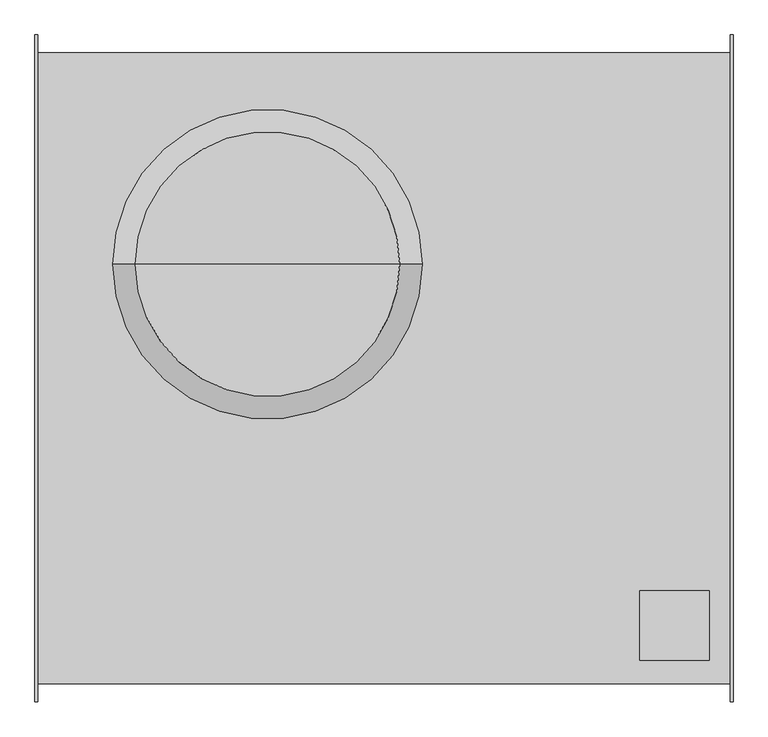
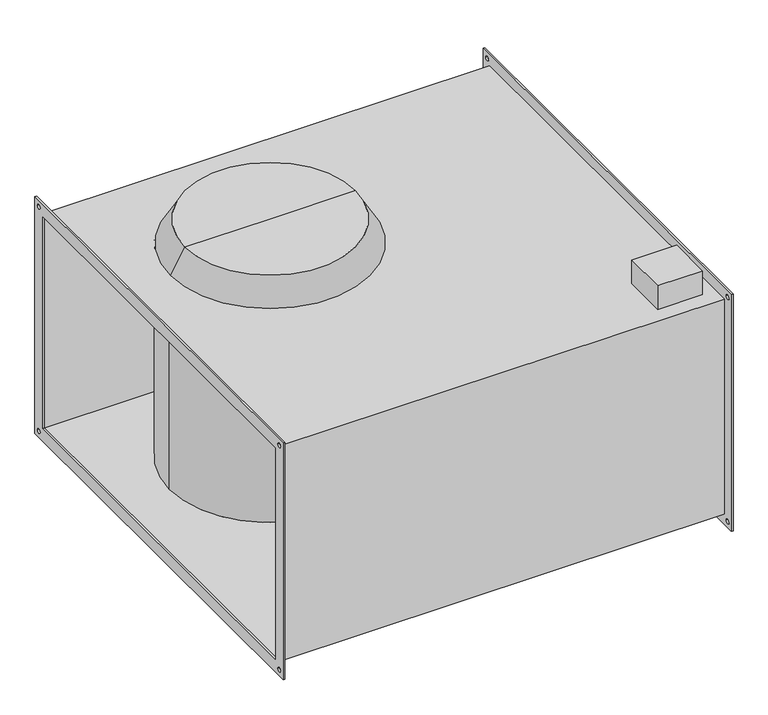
"""IFC4 building model written with IfcOpenShell, lengths in millimetres: proxy geometry."""

import ifcopenshell
import ifcopenshell.guid

model = None  # the IFC model being written
_history = None  # IfcOwnerHistory: only IFC2X3 demands one
_inside = {}  # id of a spatial element -> (the spatial element, [elements in it])
_under = {}  # id of a project, library or spatial element -> (it, [spatial elements below it])
_declared = {}  # id of a project -> (the project, [libraries it declares])
_typed = {}  # id of a type object -> (the type object, [elements of that type])
_made_of = {}  # id of a material, layer set ... -> (it, [elements and type objects made of it])


def new_model(schema):
    """Start an empty IFC model of exactly this schema.

    Asked for "IFC4X3", IfcOpenShell would pick the latest addendum, in which some entities
    have other attributes; the version numbers below select the first issue.
    IFC2X3 requires an IfcOwnerHistory on every rooted entity: one is made here for all.
    """
    global model, _history
    if schema == "IFC4X3":
        model = ifcopenshell.file(schema_version=(4, 3, 0, 0))
    else:
        model = ifcopenshell.file(schema=schema)
    _inside.clear()
    _under.clear()
    _declared.clear()
    _typed.clear()
    _made_of.clear()
    _history = None
    if model.schema == "IFC2X3":
        org = make("IfcOrganization", Name="unknown")
        user = make(
            "IfcPersonAndOrganization",
            ThePerson=make("IfcPerson", FamilyName="unknown"),
            TheOrganization=org,
        )
        app = make(
            "IfcApplication",
            ApplicationDeveloper=org,
            Version="unknown",
            ApplicationFullName="unknown",
            ApplicationIdentifier="unknown",
        )
        _history = make(
            "IfcOwnerHistory",
            OwningUser=user,
            OwningApplication=app,
            ChangeAction="ADDED",
            CreationDate=0,
        )
    return model


def make(cls, **values):
    """One entity of the class cls with the attributes given. An attribute that is None is left unset."""
    return model.create_entity(
        cls, **{name: value for name, value in values.items() if value is not None}
    )


def rooted(cls, **values):
    """An entity with a GlobalId (a new one), such as an element, a storey or a relation."""
    return make(cls, GlobalId=ifcopenshell.guid.new(), OwnerHistory=_history, **values)


def si_unit(unit_type, name, prefix=None):
    """IfcSIUnit, for example si_unit("LENGTHUNIT", "METRE", prefix="MILLI")."""
    return make("IfcSIUnit", UnitType=unit_type, Prefix=prefix, Name=name)


def assignment(units):
    """IfcUnitAssignment: the units of a project."""
    return None if units is None else make("IfcUnitAssignment", Units=units)


def point(xyz):
    """IfcCartesianPoint."""
    return None if xyz is None else make("IfcCartesianPoint", Coordinates=xyz)


def direction(xyz):
    """IfcDirection."""
    return None if xyz is None else make("IfcDirection", DirectionRatios=xyz)


def frame(location, z_axis=None, x_axis=None):
    """IfcAxis2Placement3D, a coordinate frame: its origin and axes. An axis left out is left unset."""
    return make(
        "IfcAxis2Placement3D",
        Location=point(location),
        Axis=direction(z_axis),
        RefDirection=direction(x_axis),
    )


def frame_2d(location, x_axis=None):
    """IfcAxis2Placement2D, a coordinate frame in the plane: its origin and x axis."""
    return make(
        "IfcAxis2Placement2D", Location=point(location), RefDirection=direction(x_axis)
    )


def origin():
    """The frame at (0, 0, 0) with its axes left unset."""
    return frame((0.0, 0.0, 0.0))


def place(relative_to, where):
    """IfcLocalPlacement: puts the frame where relative to a parent placement (None: the world)."""
    return make(
        "IfcLocalPlacement", PlacementRelTo=relative_to, RelativePlacement=where
    )


def context(
    kind, dimensions, precision=None, world=None, true_north=None, identifier=None
):
    """IfcGeometricRepresentationContext, for example the 3D "Model" context."""
    return make(
        "IfcGeometricRepresentationContext",
        ContextIdentifier=identifier,
        ContextType=kind,
        CoordinateSpaceDimension=dimensions,
        Precision=precision,
        WorldCoordinateSystem=world,
        TrueNorth=true_north,
    )


def project(units=None, contexts=None):
    """IfcProject with its units and contexts."""
    return rooted(
        "IfcProject",
        Name="project",
        RepresentationContexts=contexts,
        UnitsInContext=assignment(units),
    )


def spatial(cls, under=None, at=None, **own):
    """A site, building, storey or space (cls), placed at a placement, below another one or the project."""
    s = rooted(cls, ObjectPlacement=at, **own)
    if under is not None:
        _under.setdefault(under.id(), (under, []))[1].append(s)
    return s


def polyline(points):
    """IfcPolyline through the points."""
    return make("IfcPolyline", Points=[point(p) for p in points])


def circle_curve(where, radius):
    """IfcCircle in the frame where."""
    return make("IfcCircle", Position=where, Radius=radius)


def trimmed(basis, trim1, trim2, sense, master):
    """IfcTrimmedCurve: the piece of a basis curve between two trims."""
    return make(
        "IfcTrimmedCurve",
        BasisCurve=basis,
        Trim1=trim1,
        Trim2=trim2,
        SenseAgreement=sense,
        MasterRepresentation=master,
    )


def segment(curve, same_sense, transition):
    """IfcCompositeCurveSegment."""
    return make(
        "IfcCompositeCurveSegment",
        Transition=transition,
        SameSense=same_sense,
        ParentCurve=curve,
    )


def composite_curve(segments, self_intersect=None):
    """IfcCompositeCurve: segments joined end to end."""
    return make("IfcCompositeCurve", Segments=segments, SelfIntersect=self_intersect)


def outline(outer, holes=None, kind="AREA"):
    """IfcArbitraryClosedProfileDef: a profile drawn as a closed curve; with holes, ...WithVoids."""
    if holes is None:
        return make("IfcArbitraryClosedProfileDef", ProfileType=kind, OuterCurve=outer)
    return make(
        "IfcArbitraryProfileDefWithVoids",
        ProfileType=kind,
        OuterCurve=outer,
        InnerCurves=holes,
    )


def extrude(swept, where, along, depth):
    """IfcExtrudedAreaSolid: the profile swept, set in the frame where, extruded along a direction by depth."""
    return make(
        "IfcExtrudedAreaSolid",
        SweptArea=swept,
        Position=where,
        ExtrudedDirection=direction(along),
        Depth=depth,
    )


def shape(context_of_items, identifier, shape_type, items):
    """IfcShapeRepresentation: the items that make up one representation, for example the "Body"."""
    return make(
        "IfcShapeRepresentation",
        ContextOfItems=context_of_items,
        RepresentationIdentifier=identifier,
        RepresentationType=shape_type,
        Items=items,
    )


def source(mapping_origin, context_of_items, identifier, shape_type, items):
    """IfcRepresentationMap: a shape defined once, which mapped items show again and again."""
    return make(
        "IfcRepresentationMap",
        MappingOrigin=mapping_origin,
        MappedRepresentation=shape(context_of_items, identifier, shape_type, items),
    )


def transform(
    local_origin,
    x_axis=None,
    y_axis=None,
    z_axis=None,
    scale=None,
    scale2=None,
    scale3=None,
    uniform=True,
):
    """IfcCartesianTransformationOperator3D, or its non-uniform kind. x_axis, y_axis, z_axis: its Axis1, 2, 3."""
    if uniform:
        return make(
            "IfcCartesianTransformationOperator3D",
            Axis1=direction(x_axis),
            Axis2=direction(y_axis),
            LocalOrigin=point(local_origin),
            Scale=scale,
            Axis3=direction(z_axis),
        )
    return make(
        "IfcCartesianTransformationOperator3DnonUniform",
        Axis1=direction(x_axis),
        Axis2=direction(y_axis),
        LocalOrigin=point(local_origin),
        Scale=scale,
        Axis3=direction(z_axis),
        Scale2=scale2,
        Scale3=scale3,
    )


def mapped(mapping_source, mapping_target):
    """IfcMappedItem: shows the shape of a source again, moved by a transform."""
    return make(
        "IfcMappedItem", MappingSource=mapping_source, MappingTarget=mapping_target
    )


def made_of(thing, what):
    """Note that an element or type object is made of a material, layer set ...; save() writes the relation."""
    if what is not None:
        _made_of.setdefault(what.id(), (what, []))[1].append(thing)
    return thing


def element(
    cls,
    number,
    at=None,
    inside=None,
    cuts=None,
    type_object=None,
    material=None,
    context=None,
    identifier="Body",
    shape_type=None,
    held_by="IfcProductDefinitionShape",
    body=None,
    shapes=None,
    **own,
):
    """One element of the class cls, such as IfcWall. Its Tag is "e" and its number.

    at: its placement. inside: the storey or other place that contains it. cuts: it is an
    opening in that element (IfcRelVoidsElement). A single representation is given by context,
    identifier, shape_type and body (its items); several are given by shapes. held_by: the class
    of the entity that holds the representations. save() writes the other relations.
    """
    e = rooted(cls, Tag="e%d" % number, ObjectPlacement=at, **own)
    if body is not None:
        shapes = [shape(context, identifier, shape_type, body)]
    if shapes is not None:
        e.Representation = make(held_by, Representations=shapes)
    if inside is not None:
        _inside.setdefault(inside.id(), (inside, []))[1].append(e)
    if cuts is not None:
        rooted(
            "IfcRelVoidsElement", RelatingBuildingElement=cuts, RelatedOpeningElement=e
        )
    if type_object is not None:
        _typed.setdefault(type_object.id(), (type_object, []))[1].append(e)
    return made_of(e, material)


def aggregate(whole, parts):
    """IfcRelAggregates: a whole, such as a stair, and the parts it consists of."""
    return rooted("IfcRelAggregates", RelatingObject=whole, RelatedObjects=parts)


def save(model, path):
    """Write the relations noted so far, then the file.

    IfcRelAggregates (storeys below a building ...), IfcRelContainedInSpatialStructure (elements
    in a storey), IfcRelDefinesByType, IfcRelAssociatesMaterial and IfcRelDeclares: one each for
    every whole, place, type object, material and project.
    """
    for whole, parts in _under.values():
        aggregate(whole, parts)
    for where, things in _inside.values():
        rooted(
            "IfcRelContainedInSpatialStructure",
            RelatedElements=things,
            RelatingStructure=where,
        )
    for kind, things in _typed.values():
        rooted("IfcRelDefinesByType", RelatedObjects=things, RelatingType=kind)
    for what, things in _made_of.values():
        rooted("IfcRelAssociatesMaterial", RelatedObjects=things, RelatingMaterial=what)
    for by, libraries in _declared.values():
        rooted("IfcRelDeclares", RelatingContext=by, RelatedDefinitions=libraries)
    model.write(path)


def plane_surface(at):
    """IfcPlane: the flat surface through the origin of the frame at, square to its z axis."""
    return make("IfcPlane", Position=at)


def cylinder_surface(at, radius):
    """IfcCylindricalSurface: all points at the distance radius from the z axis of the frame at."""
    return make("IfcCylindricalSurface", Position=at, Radius=radius)


def revolved_surface(curve, axis_point, axis_direction):
    """IfcSurfaceOfRevolution: the curve turned about the line through axis_point along axis_direction."""
    return make(
        "IfcSurfaceOfRevolution",
        SweptCurve=make("IfcArbitraryOpenProfileDef", ProfileType="CURVE", Curve=curve),
        AxisPosition=make("IfcAxis1Placement", Location=point(axis_point), Axis=direction(axis_direction)),
    )


def advanced_brep(points, edges, surfaces, faces):
    """IfcAdvancedBrep: a solid bounded by faces that lie on surfaces and meet in shared edges.

    An edge is (start, end): straight between two places in points (the first is 0);
    or (start, end, curve); or (start, end, curve, False) where it runs against its curve.
    A face is (place in surfaces, loops), or (place, loops, False) where it looks against
    its surface's normal. A loop lists edges by number (the first is 1), with a minus sign
    where the edge is run from its end to its start. The first loop is the outer one.
    """
    corners = [point(p) for p in points]
    vertices = [make("IfcVertexPoint", VertexGeometry=c) for c in corners]
    made = []
    for start, end, *more in edges:
        made.append(
            make(
                "IfcEdgeCurve",
                EdgeStart=vertices[start],
                EdgeEnd=vertices[end],
                EdgeGeometry=more[0] if more else make("IfcPolyline", Points=[corners[start], corners[end]]),
                SameSense=more[1] if len(more) > 1 else True,
            )
        )
    hull = []
    for where, loops, *sense in faces:
        bounds = []
        for j, loop in enumerate(loops):
            ring = [make("IfcOrientedEdge", EdgeElement=made[abs(k) - 1], Orientation=k > 0) for k in loop]
            bounds.append(
                make(
                    "IfcFaceOuterBound" if j == 0 else "IfcFaceBound",
                    Bound=make("IfcEdgeLoop", EdgeList=ring),
                    Orientation=True,
                )
            )
        hull.append(make("IfcAdvancedFace", Bounds=bounds, FaceSurface=surfaces[where], SameSense=sense[0] if sense else True))
    return make("IfcAdvancedBrep", Outer=make("IfcClosedShell", CfsFaces=hull))


def mechanical_equipment_8a46c2b9(model_context):
    return source(origin(), model_context, "Body", "SolidModel", [
        extrude(outline(polyline([(480.0, 280.0), (480.0, -280.0), (-480.0, -280.0), (-480.0, 280.0), (480.0, 280.0)]), holes=[polyline([(450.0, 250.0), (-450.0, 250.0), (-450.0, -250.0), (450.0, -250.0), (450.0, 250.0)]), composite_curve([segment(trimmed(circle_curve(frame_2d((465.0, 265.0)), 5.0), [point((460.0, 265.0))], [point((470.0, 265.0))], True, "CARTESIAN"), True, "CONTINUOUS"), segment(trimmed(circle_curve(frame_2d((465.0, 265.0)), 5.0), [point((470.0, 265.0))], [point((460.0, 265.0))], True, "CARTESIAN"), True, "CONTINUOUS")], self_intersect=False), composite_curve([segment(trimmed(circle_curve(frame_2d((-465.0, 265.0)), 5.0), [point((-470.0, 265.0))], [point((-460.0, 265.0))], True, "CARTESIAN"), True, "CONTINUOUS"), segment(trimmed(circle_curve(frame_2d((-465.0, 265.0)), 5.0), [point((-460.0, 265.0))], [point((-470.0, 265.0))], True, "CARTESIAN"), True, "CONTINUOUS")], self_intersect=False), composite_curve([segment(trimmed(circle_curve(frame_2d((-465.0, -265.0)), 5.0), [point((-470.0, -265.0))], [point((-460.0, -265.0))], True, "CARTESIAN"), True, "CONTINUOUS"), segment(trimmed(circle_curve(frame_2d((-465.0, -265.0)), 5.0), [point((-460.0, -265.0))], [point((-470.0, -265.0))], True, "CARTESIAN"), True, "CONTINUOUS")], self_intersect=False), composite_curve([segment(trimmed(circle_curve(frame_2d((465.0, -265.0)), 5.0), [point((460.0, -265.0))], [point((470.0, -265.0))], True, "CARTESIAN"), True, "CONTINUOUS"), segment(trimmed(circle_curve(frame_2d((465.0, -265.0)), 5.0), [point((470.0, -265.0))], [point((460.0, -265.0))], True, "CARTESIAN"), True, "CONTINUOUS")], self_intersect=False)]), frame((498.5, 0.0, 0.0), z_axis=(1.0, 0.0, 0.0), x_axis=(0.0, 1.0, 0.0)), (0.0, 0.0, 1.0), 4.0),
        extrude(outline(polyline([(-480.0, 280.0), (480.0, 280.0), (480.0, -280.0), (-480.0, -280.0), (-480.0, 280.0)]), holes=[polyline([(-450.0, 250.0), (-450.0, -250.0), (450.0, -250.0), (450.0, 250.0), (-450.0, 250.0)]), composite_curve([segment(trimmed(circle_curve(frame_2d((465.0, 265.0)), 5.0), [point((460.0, 265.0))], [point((470.0, 265.0))], True, "CARTESIAN"), True, "CONTINUOUS"), segment(trimmed(circle_curve(frame_2d((465.0, 265.0)), 5.0), [point((470.0, 265.0))], [point((460.0, 265.0))], True, "CARTESIAN"), True, "CONTINUOUS")], self_intersect=False), composite_curve([segment(trimmed(circle_curve(frame_2d((-465.0, 265.0)), 5.0), [point((-470.0, 265.0))], [point((-460.0, 265.0))], True, "CARTESIAN"), True, "CONTINUOUS"), segment(trimmed(circle_curve(frame_2d((-465.0, 265.0)), 5.0), [point((-460.0, 265.0))], [point((-470.0, 265.0))], True, "CARTESIAN"), True, "CONTINUOUS")], self_intersect=False), composite_curve([segment(trimmed(circle_curve(frame_2d((-465.0, -265.0)), 5.0), [point((-470.0, -265.0))], [point((-460.0, -265.0))], True, "CARTESIAN"), True, "CONTINUOUS"), segment(trimmed(circle_curve(frame_2d((-465.0, -265.0)), 5.0), [point((-460.0, -265.0))], [point((-470.0, -265.0))], True, "CARTESIAN"), True, "CONTINUOUS")], self_intersect=False), composite_curve([segment(trimmed(circle_curve(frame_2d((465.0, -265.0)), 5.0), [point((460.0, -265.0))], [point((470.0, -265.0))], True, "CARTESIAN"), True, "CONTINUOUS"), segment(trimmed(circle_curve(frame_2d((465.0, -265.0)), 5.0), [point((470.0, -265.0))], [point((460.0, -265.0))], True, "CARTESIAN"), True, "CONTINUOUS")], self_intersect=False)]), frame((-502.5, 0.0, 0.0), z_axis=(1.0, 0.0, 0.0), x_axis=(0.0, 1.0, 0.0)), (0.0, 0.0, 1.0), 4.0),
        advanced_brep(
        [(-167.5, 150.0, 310.0), (-357.8589838, 150.0, 310.0), (22.8589838, 150.0, 310.0), (-392.5, 150.0, 250.0), (-392.5, 150.0, -250.0), (57.5, 150.0, -250.0), (57.5, 150.0, 250.0), (498.5, -454.0, 254.0), (498.5, -454.0, -254.0), (498.5, 454.0, -254.0), (498.5, 454.0, 254.0), (498.5, 450.0, 250.0), (498.5, 450.0, -250.0), (498.5, -450.0, -250.0), (498.5, -450.0, 250.0), (-498.5, -454.0, 254.0), (-498.5, 454.0, 254.0), (-498.5, 454.0, -254.0), (-498.5, -454.0, -254.0), (-498.5, 450.0, 250.0), (-498.5, -450.0, 250.0), (-498.5, -450.0, -250.0), (-498.5, 450.0, -250.0), (368.5, -320.0, 254.0), (468.5, -320.0, 254.0), (468.5, -420.0, 254.0), (368.5, -420.0, 254.0), (55.1905989, 150.0, 254.0), (-390.1905989, 150.0, 254.0), (468.5, -320.0, 310.0), (368.5, -320.0, 310.0), (368.5, -420.0, 310.0), (468.5, -420.0, 310.0)],
        [
            (0, 1),
            (1, 2, circle_curve(frame((-167.5, 150.0, 310.0), z_axis=(0.0, 0.0, 1.0), x_axis=(-1.0, 0.0, 0.0)), 190.3589838)),
            (2, 0),
            (2, 1, circle_curve(frame((-167.5, 150.0, 310.0), z_axis=(0.0, 0.0, 1.0), x_axis=(-1.0, 0.0, 0.0)), 190.3589838)),
            (3, 4),
            (4, 5, circle_curve(frame((-167.5, 150.0, -250.0), z_axis=(0.0, 0.0, 1.0), x_axis=(-1.0, 0.0, 0.0)), 225.0)),
            (5, 6),
            (6, 3, circle_curve(frame((-167.5, 150.0, 250.0), z_axis=(0.0, 0.0, -1.0), x_axis=(-1.0, 0.0, 0.0)), 225.0)),
            (3, 6, circle_curve(frame((-167.5, 150.0, 250.0), z_axis=(0.0, 0.0, -1.0), x_axis=(-1.0, 0.0, 0.0)), 225.0)),
            (5, 4, circle_curve(frame((-167.5, 150.0, -250.0), z_axis=(0.0, 0.0, 1.0), x_axis=(-1.0, 0.0, 0.0)), 225.0)),
            (7, 8),
            (8, 9),
            (9, 10),
            (10, 7),
            (11, 12),
            (12, 13),
            (13, 14),
            (14, 11),
            (15, 16),
            (16, 17),
            (17, 18),
            (18, 15),
            (19, 20),
            (20, 21),
            (21, 22),
            (22, 19),
            (11, 19),
            (22, 12),
            (21, 13),
            (20, 14),
            (7, 15),
            (18, 8),
            (17, 9),
            (16, 10),
            (23, 24),
            (24, 25),
            (25, 26),
            (26, 23),
            (27, 28, circle_curve(frame((-167.5, 150.0, 254.0), z_axis=(0.0, 0.0, -1.0), x_axis=(-1.0, 0.0, 0.0)), 222.6905989)),
            (28, 27, circle_curve(frame((-167.5, 150.0, 254.0), z_axis=(0.0, 0.0, -1.0), x_axis=(-1.0, 0.0, 0.0)), 222.6905989)),
            (29, 30),
            (30, 31),
            (31, 32),
            (32, 29),
            (29, 24),
            (23, 30),
            (26, 31),
            (25, 32),
            (1, 28),
            (27, 2),
        ],
        [
            plane_surface(frame((-167.5, 150.0, 310.0), z_axis=(0.0, 0.0, 1.0), x_axis=(-1.0, 0.0, 0.0))),
            cylinder_surface(frame((-167.5, 150.0, 2482.3096565), z_axis=(0.0, 0.0, 1.0), x_axis=(-1.0, 0.0, 0.0)), 225.0),
            plane_surface(frame((498.5, 450.0, -250.0), z_axis=(1.0, 0.0, 0.0), x_axis=(0.0, 0.0, -1.0))),
            plane_surface(frame((-498.5, 450.0, -250.0), z_axis=(-1.0, 0.0, 0.0), x_axis=(0.0, 0.0, 1.0))),
            plane_surface(frame((498.5, 450.0, 250.0), z_axis=(0.0, -1.0, 0.0), x_axis=(-1.0, 0.0, 0.0))),
            plane_surface(frame((498.5, 450.0, -250.0), z_axis=(0.0, 0.0, 1.0), x_axis=(-1.0, 0.0, 0.0))),
            plane_surface(frame((498.5, -450.0, -250.0), z_axis=(0.0, 1.0, 0.0), x_axis=(-1.0, 0.0, 0.0))),
            plane_surface(frame((498.5, -450.0, 250.0), z_axis=(0.0, 0.0, -1.0), x_axis=(-1.0, 0.0, 0.0))),
            plane_surface(frame((498.5, -454.0, 254.0), z_axis=(0.0, -1.0, 0.0), x_axis=(-1.0, 0.0, 0.0))),
            plane_surface(frame((498.5, -454.0, -254.0), z_axis=(0.0, 0.0, -1.0), x_axis=(-1.0, 0.0, 0.0))),
            plane_surface(frame((498.5, 454.0, -254.0), z_axis=(0.0, 1.0, 0.0), x_axis=(-1.0, 0.0, 0.0))),
            plane_surface(frame((498.5, 454.0, 254.0), z_axis=(0.0, 0.0, 1.0), x_axis=(-1.0, 0.0, 0.0))),
            plane_surface(frame((368.5, -320.0, 310.0), z_axis=(0.0, 0.0, 1.0), x_axis=(-1.0, 0.0, 0.0))),
            plane_surface(frame((468.5, -320.0, 310.0), z_axis=(0.0, 1.0, 0.0), x_axis=(0.0, 0.0, -1.0))),
            plane_surface(frame((368.5, -320.0, 310.0), z_axis=(-1.0, 0.0, 0.0), x_axis=(0.0, 0.0, -1.0))),
            plane_surface(frame((368.5, -420.0, 310.0), z_axis=(0.0, -1.0, 0.0), x_axis=(0.0, 0.0, -1.0))),
            plane_surface(frame((468.5, -420.0, 310.0), z_axis=(1.0, 0.0, 0.0), x_axis=(0.0, 0.0, -1.0))),
            revolved_surface(polyline([(-392.5, 150.0, 250.0), (-357.8589838, 150.0, 310.0)]), (-167.5, 150.0, 2482.3096565), (0.0, 0.0, 1.0)),
        ],
        [
            (0, [[1, 2, 3]]),
            (0, [[-1, -3, 4]]),
            (1, [[5, 6, 7, 8]]),
            (1, [[-5, 9, -7, 10]]),
            (2, [[11, 12, 13, 14], [15, 16, 17, 18]]),
            (3, [[19, 20, 21, 22], [23, 24, 25, 26]]),
            (4, [[-15, 27, -26, 28]]),
            (5, [[-16, -28, -25, 29], [-6, -10]]),
            (6, [[-17, -29, -24, 30]]),
            (7, [[-18, -30, -23, -27], [-8, -9]]),
            (8, [[-11, 31, -22, 32]]),
            (9, [[-12, -32, -21, 33]]),
            (10, [[-13, -33, -20, 34]]),
            (11, [[-14, -34, -19, -31], [35, 36, 37, 38], [39, 40]]),
            (12, [[41, 42, 43, 44]]),
            (13, [[-41, 45, -35, 46]]),
            (14, [[-42, -46, -38, 47]]),
            (15, [[-43, -47, -37, 48]]),
            (16, [[-44, -48, -36, -45]]),
            (17, [[-2, 49, -39, 50]]),
            (17, [[-4, -50, -40, -49]]),
        ],
    ),
    ])


if __name__ == "__main__":
    model = new_model("IFC4")
    model_context = context("Model", 3, world=origin())
    ifc_project = project(units=[si_unit("LENGTHUNIT", "METRE", prefix="MILLI")], contexts=[model_context])
    site = spatial("IfcSite", under=ifc_project)
    building = spatial("IfcBuilding", under=site)
    placement = place(None, origin())
    mechanical_equipment_shape = mechanical_equipment_8a46c2b9(model_context)
    element("IfcBuildingElementProxy", 1, Name="Mechanical Equipment", at=placement, inside=building, context=model_context, shape_type="MappedRepresentation", body=[
        mapped(mechanical_equipment_shape, transform((0.0, 0.0, 0.0), x_axis=(1.0, 0.0, 0.0), y_axis=(0.0, 1.0, 0.0), z_axis=(0.0, 0.0, 1.0))),
    ])
    save(model, "model.ifc")
